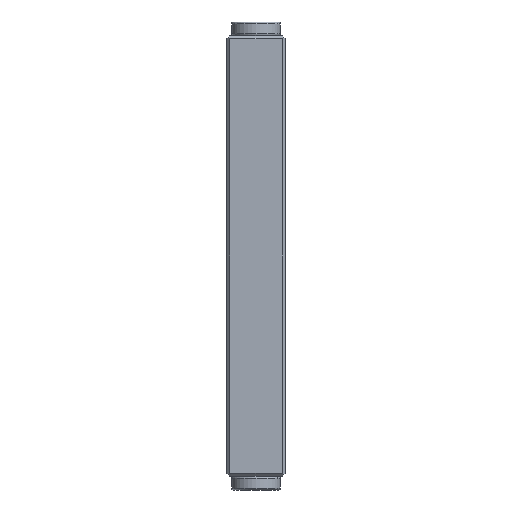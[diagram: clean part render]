
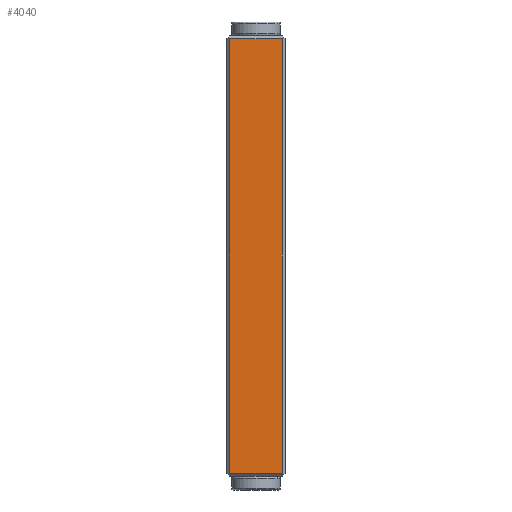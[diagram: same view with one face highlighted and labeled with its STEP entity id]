
A CAD part, left-side view. The second image highlights one B-rep face of the part: STEP entity #4040.
In plain terms, the highlighted planar face has unit normal (-1, 0, 0).
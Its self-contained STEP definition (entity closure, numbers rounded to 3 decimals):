
#139=LINE('',#5642,#508);
#179=LINE('',#5724,#548);
#180=LINE('',#5726,#549);
#181=LINE('',#5728,#550);
#508=VECTOR('',#4591,1000.);
#548=VECTOR('',#4651,1000.);
#549=VECTOR('',#4652,1000.);
#550=VECTOR('',#4653,1000.);
#930=ORIENTED_EDGE('',*,*,#1940,.T.);
#931=ORIENTED_EDGE('',*,*,#1898,.T.);
#932=ORIENTED_EDGE('',*,*,#1941,.F.);
#933=ORIENTED_EDGE('',*,*,#1942,.F.);
#1898=EDGE_CURVE('',#2408,#2409,#139,.T.);
#1940=EDGE_CURVE('',#2440,#2408,#179,.T.);
#1941=EDGE_CURVE('',#2441,#2409,#180,.T.);
#1942=EDGE_CURVE('',#2440,#2441,#181,.T.);
#2408=VERTEX_POINT('',#5643);
#2409=VERTEX_POINT('',#5644);
#2440=VERTEX_POINT('',#5725);
#2441=VERTEX_POINT('',#5727);
#2860=EDGE_LOOP('',(#930,#931,#932,#933));
#3113=FACE_BOUND('',#2860,.T.);
#3365=PLANE('',#4244);
#4040=ADVANCED_FACE('',(#3113),#3365,.T.);
#4244=AXIS2_PLACEMENT_3D('',#5723,#4649,#4650);
#4591=DIRECTION('',(0.,0.,1.));
#4649=DIRECTION('',(-1.,0.,0.));
#4650=DIRECTION('',(0.,0.,1.));
#4651=DIRECTION('',(0.,-1.,0.));
#4652=DIRECTION('',(0.,-1.,0.));
#4653=DIRECTION('',(0.,0.,1.));
#5642=CARTESIAN_POINT('',(-2.75,-2.7,-45.));
#5643=CARTESIAN_POINT('',(-2.75,-2.7,-44.7));
#5644=CARTESIAN_POINT('',(-2.75,-2.7,-0.3));
#5723=CARTESIAN_POINT('',(-2.75,2.7,-45.));
#5724=CARTESIAN_POINT('',(-2.75,3.9,-44.7));
#5725=CARTESIAN_POINT('',(-2.75,2.7,-44.7));
#5726=CARTESIAN_POINT('',(-2.75,3.9,-0.3));
#5727=CARTESIAN_POINT('',(-2.75,2.7,-0.3));
#5728=CARTESIAN_POINT('',(-2.75,2.7,-45.));
